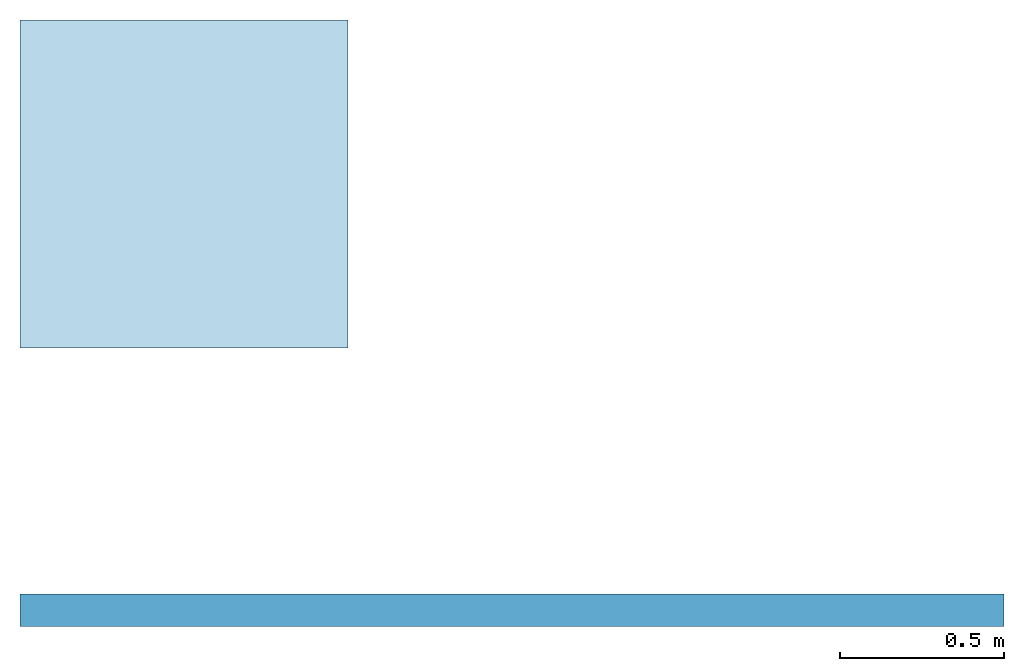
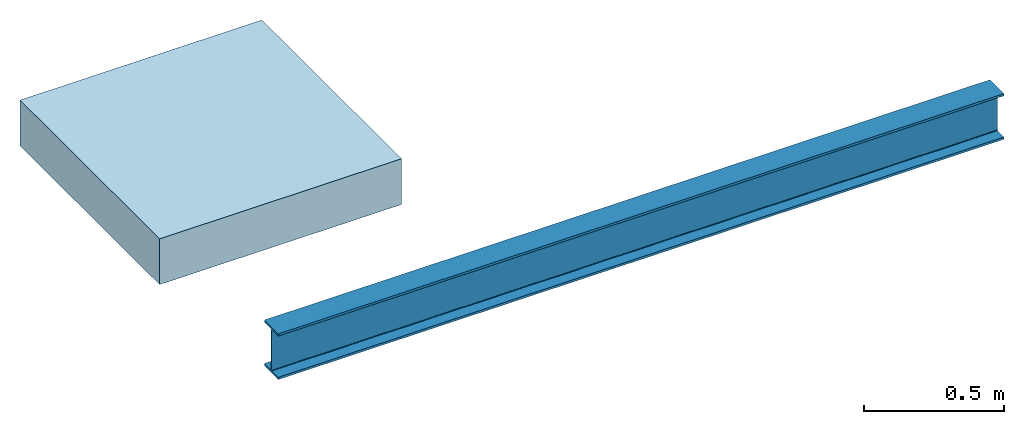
# One storey: 1 beam, 1 slab.
"""IFC4 building model written with IfcOpenShell, lengths in feet."""

from ifc_helpers import new_model, entity, si_unit, converted_unit, frame, origin_with_axes, origin_2d_with_axis, place, context, subcontext, project, spatial, line, indexed_curve, i_section, outline, extrude, material, layer, layer_set, layer_usage, material_profile, profile_set, profile_usage, type_object, element, save


model = new_model("IFC4")

# Units and contexts
model_context = context("Model", 3, precision=1e-05, world=origin_with_axes())
plan_context = context("Plan", 2, precision=1e-05, world=origin_2d_with_axis())
body_context = subcontext(model_context, "Body", "Model", "MODEL_VIEW")
ifc_project = project(units=[converted_unit("LENGTHUNIT", "foot", entity("IfcReal", 0.3048), si_unit("LENGTHUNIT", "METRE"), dimensions=[1, 0, 0, 0, 0, 0, 0]), converted_unit("VOLUMEUNIT", "cubic foot", entity("IfcReal", 0.0283168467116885), si_unit("VOLUMEUNIT", "CUBIC_METRE"), dimensions=[3, 0, 0, 0, 0, 0, 0]), converted_unit("PLANEANGLEUNIT", "degree", entity("IfcReal", 0.0174532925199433), si_unit("PLANEANGLEUNIT", "RADIAN"), dimensions=[0, 0, 0, 0, 0, 0, 0]), converted_unit("AREAUNIT", "square foot", entity("IfcReal", 0.09290304), si_unit("AREAUNIT", "SQUARE_METRE"), dimensions=[2, 0, 0, 0, 0, 0, 0])], contexts=[model_context, plan_context])

# Site, building, storey
site_placement = place(None, origin_with_axes())
site = spatial("IfcSite", under=ifc_project, at=site_placement, Name="My Site")
building_placement = place(site_placement, origin_with_axes())
building = spatial("IfcBuilding", under=site, at=building_placement, Name="My Building")
storey_placement = place(building_placement, origin_with_axes())
storey = spatial("IfcBuildingStorey", under=building, at=storey_placement, Name="My Storey")

# Beam
ifc_material_1 = material(Name="Corten Steel Beam")
ifc_material_profile = material_profile(ifc_material_1, i_section(OverallWidth=0.328083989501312, OverallDepth=0.656167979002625, WebThickness=0.0164041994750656, FlangeThickness=0.0328083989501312, FilletRadius=0.0164041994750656))
ifc_profile_set = profile_set([ifc_material_profile])
ifc_profile_usage = profile_usage(ifc_profile_set, cardinal=5)
beam_type = type_object("IfcBeamType", Name="B1", PredefinedType="NOTDEFINED", material=ifc_profile_set)
beam_placement = place(storey_placement, frame((0.0, 0.0, 0.0), z_axis=(0.999999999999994, -7.54979012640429e-08, 7.54979012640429e-08), x_axis=(7.54979012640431e-08, 0.999999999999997, 7.16093850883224e-15)))
element("IfcBeam", 1, at=beam_placement, inside=storey, type_object=beam_type, material=ifc_profile_usage, Name="Beam", context=body_context, shape_type="SweptSolid", body=[
    extrude(i_section(OverallWidth=0.328083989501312, OverallDepth=0.656167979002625, WebThickness=0.0164041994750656, FlangeThickness=0.0328083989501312, FilletRadius=0.0164041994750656), origin_with_axes(), (0.0, 0.0, 1.0), 9.84251968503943),
])

# Slab
ifc_material_2 = material(Name="Concrete Floor")
ifc_layer = layer(ifc_material_2, 0.656167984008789)
ifc_layer_set = layer_set([ifc_layer])
ifc_layer_usage = layer_usage(ifc_layer_set, "AXIS3", "POSITIVE", 0.0)
slab_type = type_object("IfcSlabType", Name="FLR150", PredefinedType="NOTDEFINED", material=ifc_layer_set)
slab_placement = place(storey_placement, frame((0.0, 2.62385278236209, -0.656167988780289), z_axis=(0.0, 0.0, 1.0), x_axis=(1.0, 0.0, 0.0)))
element("IfcSlab", 2, at=slab_placement, inside=storey, type_object=slab_type, material=ifc_layer_usage, Name="Slab", context=body_context, shape_type="SweptSolid", body=[
    extrude(outline(indexed_curve([(0.0, 0.0), (3.28083989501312, 0.0), (3.28083989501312, 3.28083989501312), (0.0, 3.28083989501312)], segments=[line(4, 1), line(1, 2), line(2, 3), line(3, 4)], self_intersect=False)), None, (0.0, 0.0, 1.0), 0.656167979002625),
])

save(model, "model.ifc")
